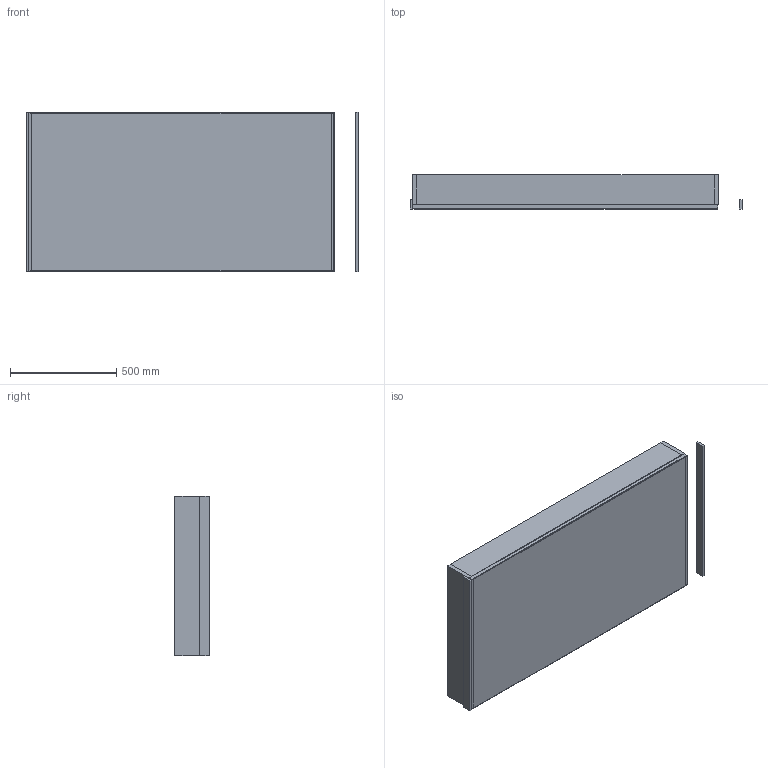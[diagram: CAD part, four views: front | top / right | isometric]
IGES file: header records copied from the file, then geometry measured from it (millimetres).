
Start section: Data from Parasolid IGES Translator 19.0.9, Copyright(c) 2006 Siemens PL M Software. All Rights Reserved.
Global section: file name: noorth-mirror-H 75 D 4,5-16 W 144_9154.igs; native system: By Siemens PLM Incorporated; preprocessor: XPlus GENERIC/IGES 19.0.9; author: Noname; organization: Noname; date: 20200519.113043; units: metre
Bounding box: 1563.82 x 162 x 750 mm (x, y, z)
Volume: 36360612.3 mm3; surface area: 8050453.1 mm2
Topology: 10 solids, 10 shells, 84 faces, 168 edges, 104 vertices
Faces by surface type: plane 84
